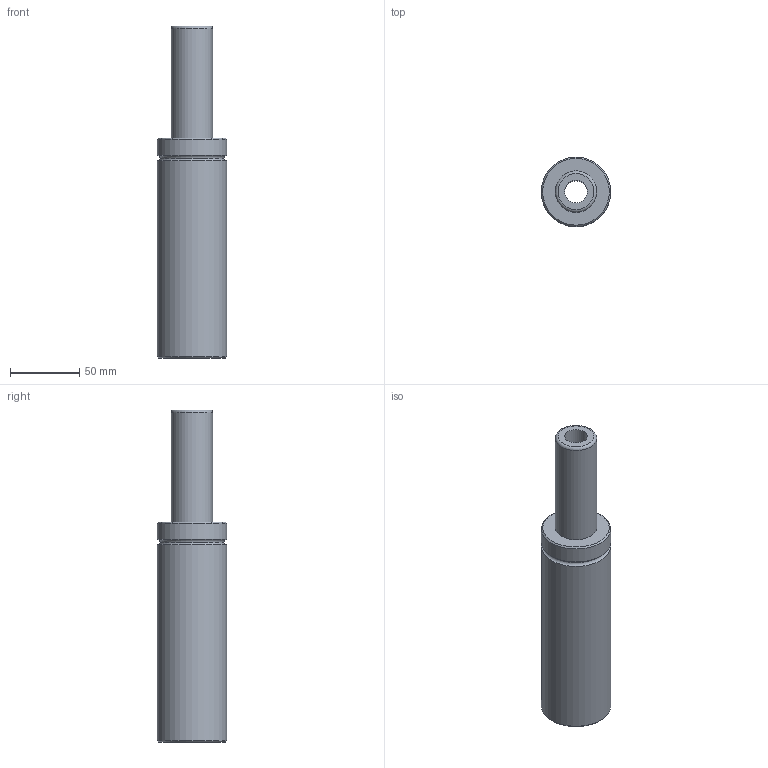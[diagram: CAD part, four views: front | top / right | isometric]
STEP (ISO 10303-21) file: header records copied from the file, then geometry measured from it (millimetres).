
FILE_DESCRIPTION(('FreeCAD Model'),'2;1');
FILE_NAME('Open CASCADE Shape Model','2024-11-14T08:33:47',('Author'),( ''),'Open CASCADE STEP processor 7.6','FreeCAD','Unknown');
FILE_SCHEMA(('AUTOMOTIVE_DESIGN { 1 0 10303 214 1 1 1 1 }'));
Length unit declared in the file: millimetre
Products named in the file (5): TPHC600x50; Part001; Fillet; Part007; Cut002
Assembly tree (4 placements, depth 3):
  TPHC600x50
    Part001
      Fillet
    Part007
      Cut002
Bounding box: 50.2 x 50.2 x 240 mm (x, y, z)
Volume: 319216.4 mm3; surface area: 50207.4 mm2
Topology: 2 solids, 2 shells, 20 faces, 33 edges, 20 vertices
Faces by surface type: cylinder 8, plane 7, torus 3, cone 2
Full cylindrical faces by diameter (mm): 6 x3, 16.4 x2, 30 x1, 50.2 x2
Entity records: 582 total; most frequent: DIRECTION 106, CARTESIAN_POINT 78, ORIENTED_EDGE 66, AXIS2_PLACEMENT_3D 48, EDGE_CURVE 33, FACE_BOUND 27, EDGE_LOOP 27, CIRCLE 23
